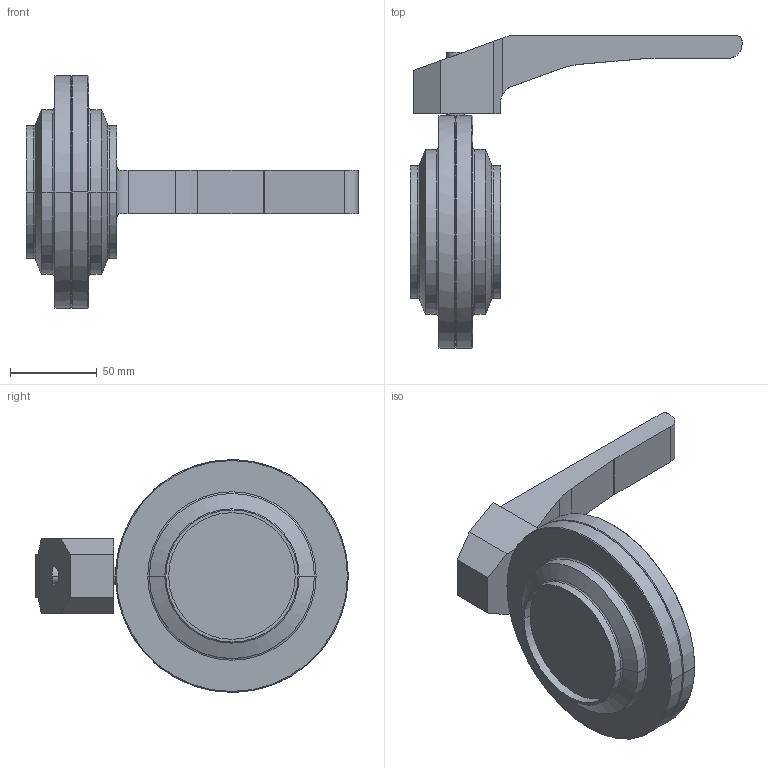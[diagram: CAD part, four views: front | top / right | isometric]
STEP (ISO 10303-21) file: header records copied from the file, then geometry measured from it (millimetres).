
FILE_DESCRIPTION(('OneSpaceDesigner STEP Export'),'2;1');
FILE_NAME('SV1-3zoll-H-12S.stp','2007-04-20T11:45:02',(''),(''),'OneSpace Designer STEP processor for AP214 (Solid Model)','OneSpace Modeling 15.00 06-Feb-2007 (C) CoCreate Software GmbH','');
FILE_SCHEMA(('AUTOMOTIVE_DESIGN { 1 0 10303 214 1 1 1 1 }'));
Length unit declared in the file: millimetre
Products named in the file (3): Handhebel-SV-40-100; Gehäusehälfte-SV1-3zoll-1S; SV1-3zoll-H-12S-vereint
Assembly tree (2 placements, depth 2):
  SV1-3zoll-H-12S-vereint
    Gehäusehälfte-SV1-3zoll-1S
    Handhebel-SV-40-100
Bounding box: 191.2 x 180 x 134 mm (x, y, z)
Volume: 561026.6 mm3; surface area: 66855.7 mm2
Topology: 2 solids, 2 shells, 70 faces, 157 edges, 96 vertices
Faces by surface type: plane 25, cylinder 25, cone 12, torus 8
Entity records: 2235 total; most frequent: CARTESIAN_POINT 733, ORIENTED_EDGE 314, DIRECTION 275, EDGE_CURVE 157, AXIS2_PLACEMENT_3D 99, VERTEX_POINT 96, VECTOR 77, LINE 77
